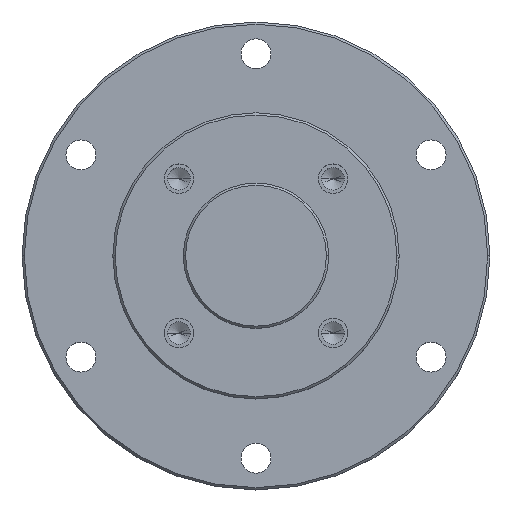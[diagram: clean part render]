
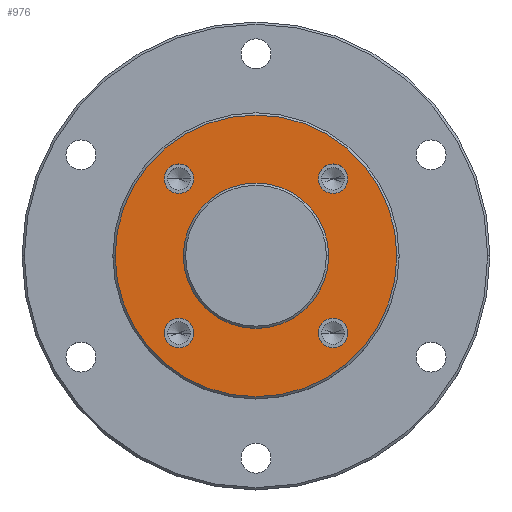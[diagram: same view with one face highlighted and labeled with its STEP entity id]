
A CAD part, top view. The second image highlights one B-rep face of the part: STEP entity #976.
In plain terms, the highlighted planar face has unit normal (0, 0, 1).
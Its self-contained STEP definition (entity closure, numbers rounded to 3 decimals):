
#33 = CARTESIAN_POINT ( 'NONE',  ( -20.221, 16.971, 0. ) ) ;
#40 = CARTESIAN_POINT ( 'NONE',  ( -20.221, -16.971, 0. ) ) ;
#159 = CARTESIAN_POINT ( 'NONE',  ( 16.971, -16.971, 0. ) ) ;
#194 = DIRECTION ( 'NONE',  ( 0., 0., 1. ) ) ;
#206 = EDGE_LOOP ( 'NONE', ( #405, #471 ) ) ;
#242 = ORIENTED_EDGE ( 'NONE', *, *, #472, .T. ) ;
#252 = ORIENTED_EDGE ( 'NONE', *, *, #1393, .T. ) ;
#263 = EDGE_LOOP ( 'NONE', ( #887, #891 ) ) ;
#267 = AXIS2_PLACEMENT_3D ( 'NONE', #463, #1678, #622 ) ;
#272 = VERTEX_POINT ( 'NONE', #33 ) ;
#275 = VERTEX_POINT ( 'NONE', #1721 ) ;
#301 = DIRECTION ( 'NONE',  ( 0., 0., 1. ) ) ;
#312 = DIRECTION ( 'NONE',  ( 1., 0., 0. ) ) ;
#361 = ORIENTED_EDGE ( 'NONE', *, *, #478, .F. ) ;
#389 = ORIENTED_EDGE ( 'NONE', *, *, #1018, .F. ) ;
#405 = ORIENTED_EDGE ( 'NONE', *, *, #486, .F. ) ;
#412 = VERTEX_POINT ( 'NONE', #40 ) ;
#437 = CARTESIAN_POINT ( 'NONE',  ( 0., 0., 0. ) ) ;
#444 = VERTEX_POINT ( 'NONE', #1248 ) ;
#463 = CARTESIAN_POINT ( 'NONE',  ( -16.971, -16.971, 0. ) ) ;
#471 = ORIENTED_EDGE ( 'NONE', *, *, #1053, .F. ) ;
#472 = EDGE_CURVE ( 'NONE', #1640, #275, #1370, .T. ) ;
#475 = VERTEX_POINT ( 'NONE', #947 ) ;
#478 = EDGE_CURVE ( 'NONE', #1251, #272, #906, .T. ) ;
#486 = EDGE_CURVE ( 'NONE', #1389, #412, #2090, .T. ) ;
#499 = CIRCLE ( 'NONE', #680, 3.25 ) ;
#513 = EDGE_CURVE ( 'NONE', #743, #1506, #1774, .T. ) ;
#518 = EDGE_CURVE ( 'NONE', #444, #551, #1549, .T. ) ;
#520 = EDGE_CURVE ( 'NONE', #1350, #475, #544, .T. ) ;
#544 = CIRCLE ( 'NONE', #1403, 16. ) ;
#551 = VERTEX_POINT ( 'NONE', #1704 ) ;
#566 = DIRECTION ( 'NONE',  ( 0., 0., 1. ) ) ;
#577 = EDGE_LOOP ( 'NONE', ( #753, #885 ) ) ;
#585 = AXIS2_PLACEMENT_3D ( 'NONE', #782, #2070, #954 ) ;
#622 = DIRECTION ( 'NONE',  ( -1., 0., 0. ) ) ;
#628 = AXIS2_PLACEMENT_3D ( 'NONE', #1785, #710, #1990 ) ;
#630 = DIRECTION ( 'NONE',  ( 0., 0., 1. ) ) ;
#641 = EDGE_LOOP ( 'NONE', ( #361, #389 ) ) ;
#644 = ORIENTED_EDGE ( 'NONE', *, *, #513, .F. ) ;
#664 = ORIENTED_EDGE ( 'NONE', *, *, #1096, .F. ) ;
#669 = FACE_BOUND ( 'NONE', #577, .T. ) ;
#680 = AXIS2_PLACEMENT_3D ( 'NONE', #1596, #566, #1808 ) ;
#710 = DIRECTION ( 'NONE',  ( 0., 0., 1. ) ) ;
#737 = DIRECTION ( 'NONE',  ( 0., 0., 1. ) ) ;
#743 = VERTEX_POINT ( 'NONE', #2139 ) ;
#753 = ORIENTED_EDGE ( 'NONE', *, *, #518, .F. ) ;
#755 = CARTESIAN_POINT ( 'NONE',  ( -31., 0., 0. ) ) ;
#757 = AXIS2_PLACEMENT_3D ( 'NONE', #1150, #194, #1317 ) ;
#782 = CARTESIAN_POINT ( 'NONE',  ( -16.971, 16.971, 0. ) ) ;
#799 = CARTESIAN_POINT ( 'NONE',  ( 16.971, 16.971, 0. ) ) ;
#806 = DIRECTION ( 'NONE',  ( 0., 0., -1. ) ) ;
#832 = DIRECTION ( 'NONE',  ( 0., 0., 1. ) ) ;
#855 = FACE_BOUND ( 'NONE', #1288, .T. ) ;
#885 = ORIENTED_EDGE ( 'NONE', *, *, #1144, .F. ) ;
#887 = ORIENTED_EDGE ( 'NONE', *, *, #520, .F. ) ;
#891 = ORIENTED_EDGE ( 'NONE', *, *, #1212, .F. ) ;
#906 = CIRCLE ( 'NONE', #585, 3.25 ) ;
#947 = CARTESIAN_POINT ( 'NONE',  ( -16., 0., 0. ) ) ;
#954 = DIRECTION ( 'NONE',  ( 1., 0., 0. ) ) ;
#969 = DIRECTION ( 'NONE',  ( -1., 0., 0. ) ) ;
#976 = ADVANCED_FACE ( 'NONE', ( #1536, #1211, #1916, #855, #669, #1413 ), #1476, .F. ) ;
#998 = EDGE_LOOP ( 'NONE', ( #242, #252 ) ) ;
#1018 = EDGE_CURVE ( 'NONE', #272, #1251, #1419, .T. ) ;
#1053 = EDGE_CURVE ( 'NONE', #412, #1389, #2232, .T. ) ;
#1076 = CARTESIAN_POINT ( 'NONE',  ( 13.721, 16.971, 0. ) ) ;
#1081 = CARTESIAN_POINT ( 'NONE',  ( -13.721, -16.971, 0. ) ) ;
#1096 = EDGE_CURVE ( 'NONE', #1506, #743, #499, .T. ) ;
#1113 = AXIS2_PLACEMENT_3D ( 'NONE', #159, #1282, #312 ) ;
#1144 = EDGE_CURVE ( 'NONE', #551, #444, #2187, .T. ) ;
#1150 = CARTESIAN_POINT ( 'NONE',  ( 0., 0., 0. ) ) ;
#1201 = AXIS2_PLACEMENT_3D ( 'NONE', #437, #1641, #1617 ) ;
#1211 = FACE_BOUND ( 'NONE', #641, .T. ) ;
#1212 = EDGE_CURVE ( 'NONE', #475, #1350, #2118, .T. ) ;
#1248 = CARTESIAN_POINT ( 'NONE',  ( 20.221, -16.971, 0. ) ) ;
#1251 = VERTEX_POINT ( 'NONE', #2152 ) ;
#1267 = CARTESIAN_POINT ( 'NONE',  ( 0., 0., 0. ) ) ;
#1282 = DIRECTION ( 'NONE',  ( 0., 0., 1. ) ) ;
#1288 = EDGE_LOOP ( 'NONE', ( #644, #664 ) ) ;
#1317 = DIRECTION ( 'NONE',  ( 1., 0., 0. ) ) ;
#1350 = VERTEX_POINT ( 'NONE', #1817 ) ;
#1370 = CIRCLE ( 'NONE', #2059, 31. ) ;
#1389 = VERTEX_POINT ( 'NONE', #1081 ) ;
#1393 = EDGE_CURVE ( 'NONE', #275, #1640, #1928, .T. ) ;
#1403 = AXIS2_PLACEMENT_3D ( 'NONE', #1691, #630, #1900 ) ;
#1413 = FACE_BOUND ( 'NONE', #263, .T. ) ;
#1419 = CIRCLE ( 'NONE', #2197, 3.25 ) ;
#1453 = DIRECTION ( 'NONE',  ( -1., 0., 0. ) ) ;
#1476 = PLANE ( 'NONE',  #1822 ) ;
#1506 = VERTEX_POINT ( 'NONE', #1076 ) ;
#1536 = FACE_OUTER_BOUND ( 'NONE', #998, .T. ) ;
#1549 = CIRCLE ( 'NONE', #1113, 3.25 ) ;
#1596 = CARTESIAN_POINT ( 'NONE',  ( 16.971, 16.971, 0. ) ) ;
#1617 = DIRECTION ( 'NONE',  ( -1., 0., 0. ) ) ;
#1640 = VERTEX_POINT ( 'NONE', #755 ) ;
#1641 = DIRECTION ( 'NONE',  ( 0., 0., 1. ) ) ;
#1678 = DIRECTION ( 'NONE',  ( 0., 0., 1. ) ) ;
#1691 = CARTESIAN_POINT ( 'NONE',  ( 0., 0., 0. ) ) ;
#1704 = CARTESIAN_POINT ( 'NONE',  ( 13.721, -16.971, 0. ) ) ;
#1721 = CARTESIAN_POINT ( 'NONE',  ( 31., 0., 0. ) ) ;
#1774 = CIRCLE ( 'NONE', #2143, 3.25 ) ;
#1785 = CARTESIAN_POINT ( 'NONE',  ( -16.971, -16.971, 0. ) ) ;
#1808 = DIRECTION ( 'NONE',  ( -1., 0., 0. ) ) ;
#1817 = CARTESIAN_POINT ( 'NONE',  ( 16., 0., 0. ) ) ;
#1822 = AXIS2_PLACEMENT_3D ( 'NONE', #1902, #806, #2087 ) ;
#1828 = CARTESIAN_POINT ( 'NONE',  ( 16.971, -16.971, 0. ) ) ;
#1900 = DIRECTION ( 'NONE',  ( 1., 0., 0. ) ) ;
#1902 = CARTESIAN_POINT ( 'NONE',  ( 0., 31.5, 0. ) ) ;
#1916 = FACE_BOUND ( 'NONE', #206, .T. ) ;
#1928 = CIRCLE ( 'NONE', #1201, 31. ) ;
#1935 = CARTESIAN_POINT ( 'NONE',  ( -16.971, 16.971, 0. ) ) ;
#1990 = DIRECTION ( 'NONE',  ( -1., 0., 0. ) ) ;
#2028 = DIRECTION ( 'NONE',  ( 1., 0., 0. ) ) ;
#2059 = AXIS2_PLACEMENT_3D ( 'NONE', #1267, #301, #1453 ) ;
#2070 = DIRECTION ( 'NONE',  ( 0., 0., 1. ) ) ;
#2079 = DIRECTION ( 'NONE',  ( 0., 0., 1. ) ) ;
#2087 = DIRECTION ( 'NONE',  ( -1., 0., 0. ) ) ;
#2090 = CIRCLE ( 'NONE', #267, 3.25 ) ;
#2117 = DIRECTION ( 'NONE',  ( 1., 0., 0. ) ) ;
#2118 = CIRCLE ( 'NONE', #757, 16. ) ;
#2139 = CARTESIAN_POINT ( 'NONE',  ( 20.221, 16.971, 0. ) ) ;
#2143 = AXIS2_PLACEMENT_3D ( 'NONE', #799, #2079, #969 ) ;
#2152 = CARTESIAN_POINT ( 'NONE',  ( -13.721, 16.971, 0. ) ) ;
#2187 = CIRCLE ( 'NONE', #2205, 3.25 ) ;
#2197 = AXIS2_PLACEMENT_3D ( 'NONE', #1935, #832, #2117 ) ;
#2205 = AXIS2_PLACEMENT_3D ( 'NONE', #1828, #737, #2028 ) ;
#2232 = CIRCLE ( 'NONE', #628, 3.25 ) ;
